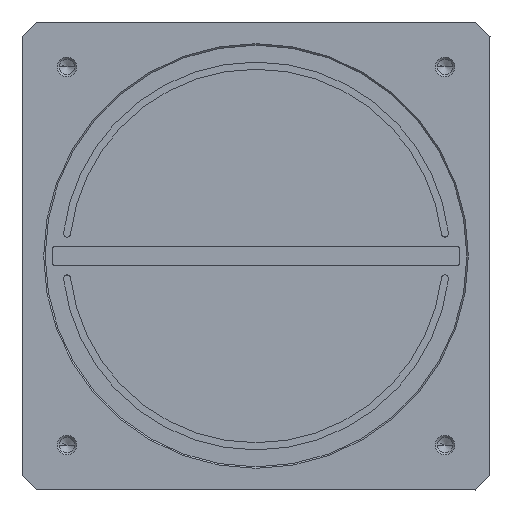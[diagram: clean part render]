
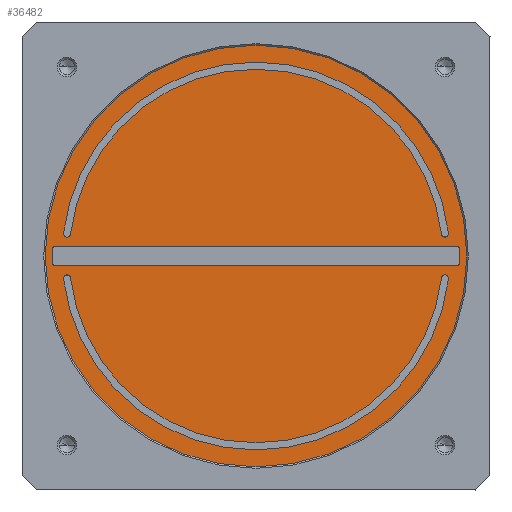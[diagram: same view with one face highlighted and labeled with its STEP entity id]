
A CAD part, front view. The second image highlights one B-rep face of the part: STEP entity #36482.
In plain terms, the highlighted planar face has unit normal (0, -1, 0).
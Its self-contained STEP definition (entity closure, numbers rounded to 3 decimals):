
#11967=CARTESIAN_POINT('',(0.,5.6,0.));
#11968=DIRECTION('',(0.,-1.,0.));
#11969=DIRECTION('',(0.,0.,-1.));
#11970=AXIS2_PLACEMENT_3D('',#11967,#11968,#11969);
#11972=CARTESIAN_POINT('',(0.,5.6,0.));
#11973=DIRECTION('',(0.,-1.,0.));
#11974=DIRECTION('',(0.,0.,1.));
#11975=AXIS2_PLACEMENT_3D('',#11972,#11973,#11974);
#11977=CARTESIAN_POINT('',(0.,5.6,0.));
#11978=DIRECTION('',(0.,-1.,0.));
#11979=DIRECTION('',(0.,0.,1.));
#11980=AXIS2_PLACEMENT_3D('',#11977,#11978,#11979);
#11982=CARTESIAN_POINT('',(0.,5.6,0.));
#11983=DIRECTION('',(0.,-1.,0.));
#11984=DIRECTION('',(0.993,0.,0.118));
#11985=AXIS2_PLACEMENT_3D('',#11982,#11983,#11984);
#11987=CARTESIAN_POINT('',(39.969,5.6,4.75));
#11988=DIRECTION('',(0.,1.,0.));
#11989=DIRECTION('',(0.993,0.,0.118));
#11990=AXIS2_PLACEMENT_3D('',#11987,#11988,#11989);
#11992=CARTESIAN_POINT('',(0.,5.6,0.));
#11993=DIRECTION('',(0.,1.,0.));
#11994=DIRECTION('',(0.,0.,1.));
#11995=AXIS2_PLACEMENT_3D('',#11992,#11993,#11994);
#11997=CARTESIAN_POINT('',(0.,5.6,0.));
#11998=DIRECTION('',(0.,1.,0.));
#11999=DIRECTION('',(-0.993,0.,0.118));
#12000=AXIS2_PLACEMENT_3D('',#11997,#11998,#11999);
#12002=CARTESIAN_POINT('',(-39.969,5.6,4.75));
#12003=DIRECTION('',(0.,1.,0.));
#12004=DIRECTION('',(0.,0.,-1.));
#12005=AXIS2_PLACEMENT_3D('',#12002,#12003,#12004);
#12007=CARTESIAN_POINT('',(-39.969,5.6,4.75));
#12008=DIRECTION('',(0.,1.,0.));
#12009=DIRECTION('',(0.993,0.,-0.118));
#12010=AXIS2_PLACEMENT_3D('',#12007,#12008,#12009);
#12012=CARTESIAN_POINT('',(-39.969,5.6,-4.75));
#12013=DIRECTION('',(0.,1.,0.));
#12014=DIRECTION('',(-0.993,0.,-0.118));
#12015=AXIS2_PLACEMENT_3D('',#12012,#12013,#12014);
#12017=CARTESIAN_POINT('',(0.,5.6,0.));
#12018=DIRECTION('',(0.,1.,0.));
#12019=DIRECTION('',(0.,0.,-1.));
#12020=AXIS2_PLACEMENT_3D('',#12017,#12018,#12019);
#12022=CARTESIAN_POINT('',(0.,5.6,0.));
#12023=DIRECTION('',(0.,1.,0.));
#12024=DIRECTION('',(0.993,0.,-0.118));
#12025=AXIS2_PLACEMENT_3D('',#12022,#12023,#12024);
#12027=CARTESIAN_POINT('',(39.969,5.6,-4.75));
#12028=DIRECTION('',(0.,1.,0.));
#12029=DIRECTION('',(0.,0.,1.));
#12030=AXIS2_PLACEMENT_3D('',#12027,#12028,#12029);
#12032=CARTESIAN_POINT('',(39.969,5.6,-4.75));
#12033=DIRECTION('',(0.,1.,0.));
#12034=DIRECTION('',(-0.993,0.,0.118));
#12035=AXIS2_PLACEMENT_3D('',#12032,#12033,#12034);
#12037=CARTESIAN_POINT('',(0.,5.6,0.));
#12038=DIRECTION('',(0.,-1.,0.));
#12039=DIRECTION('',(0.,0.,-1.));
#12040=AXIS2_PLACEMENT_3D('',#12037,#12038,#12039);
#12042=CARTESIAN_POINT('',(0.,5.6,0.));
#12043=DIRECTION('',(0.,-1.,0.));
#12044=DIRECTION('',(-0.993,0.,-0.118));
#12045=AXIS2_PLACEMENT_3D('',#12042,#12043,#12044);
#12047=CARTESIAN_POINT('',(42.5,5.6,-1.5));
#12048=DIRECTION('',(0.,1.,0.));
#12049=DIRECTION('',(1.,0.,0.));
#12050=AXIS2_PLACEMENT_3D('',#12047,#12048,#12049);
#12052=CARTESIAN_POINT('',(42.5,5.6,1.5));
#12053=DIRECTION('',(0.,1.,0.));
#12054=DIRECTION('',(0.,0.,1.));
#12055=AXIS2_PLACEMENT_3D('',#12052,#12053,#12054);
#12057=CARTESIAN_POINT('',(-42.5,5.6,1.5));
#12058=DIRECTION('',(0.,1.,0.));
#12059=DIRECTION('',(-1.,0.,0.));
#12060=AXIS2_PLACEMENT_3D('',#12057,#12058,#12059);
#12062=CARTESIAN_POINT('',(-42.5,5.6,-1.5));
#12063=DIRECTION('',(0.,1.,0.));
#12064=DIRECTION('',(0.,0.,-1.));
#12065=AXIS2_PLACEMENT_3D('',#12062,#12063,#12064);
#12190=DIRECTION('',(1.,0.,0.));
#12191=VECTOR('',#12190,85.);
#12192=CARTESIAN_POINT('',(-42.5,5.6,-2.1));
#12193=LINE('',#12192,#12191);
#12207=DIRECTION('',(0.,0.,-1.));
#12208=VECTOR('',#12207,3.);
#12209=CARTESIAN_POINT('',(-43.1,5.6,1.5));
#12210=LINE('',#12209,#12208);
#12224=DIRECTION('',(-1.,0.,0.));
#12225=VECTOR('',#12224,85.);
#12226=CARTESIAN_POINT('',(42.5,5.6,2.1));
#12227=LINE('',#12226,#12225);
#12241=DIRECTION('',(0.,0.,1.));
#12242=VECTOR('',#12241,3.);
#12243=CARTESIAN_POINT('',(43.1,5.6,-1.5));
#12244=LINE('',#12243,#12242);
#17502=CARTESIAN_POINT('',(0.,5.6,-45.1));
#17503=CARTESIAN_POINT('',(0.,5.6,45.1));
#17504=VERTEX_POINT('',#17502);
#17505=VERTEX_POINT('',#17503);
#17506=CARTESIAN_POINT('',(0.,5.6,39.5));
#17507=CARTESIAN_POINT('',(-39.224,5.6,4.661));
#17508=VERTEX_POINT('',#17506);
#17509=VERTEX_POINT('',#17507);
#17510=CARTESIAN_POINT('',(39.224,5.6,4.661));
#17511=VERTEX_POINT('',#17510);
#17512=CARTESIAN_POINT('',(40.713,5.6,4.839));
#17513=VERTEX_POINT('',#17512);
#17514=CARTESIAN_POINT('',(0.,5.6,41.));
#17515=VERTEX_POINT('',#17514);
#17516=CARTESIAN_POINT('',(-40.713,5.6,4.839));
#17517=VERTEX_POINT('',#17516);
#17518=CARTESIAN_POINT('',(-39.969,5.6,4.));
#17519=VERTEX_POINT('',#17518);
#17520=CARTESIAN_POINT('',(-40.713,5.6,-4.839));
#17521=CARTESIAN_POINT('',(-39.224,5.6,-4.661));
#17522=VERTEX_POINT('',#17520);
#17523=VERTEX_POINT('',#17521);
#17524=CARTESIAN_POINT('',(0.,5.6,-41.));
#17525=VERTEX_POINT('',#17524);
#17526=CARTESIAN_POINT('',(40.713,5.6,-4.839));
#17527=VERTEX_POINT('',#17526);
#17528=CARTESIAN_POINT('',(39.969,5.6,-4.));
#17529=VERTEX_POINT('',#17528);
#17530=CARTESIAN_POINT('',(39.224,5.6,-4.661));
#17531=VERTEX_POINT('',#17530);
#17532=CARTESIAN_POINT('',(0.,5.6,-39.5));
#17533=VERTEX_POINT('',#17532);
#17534=CARTESIAN_POINT('',(43.1,5.6,-1.5));
#17535=CARTESIAN_POINT('',(42.5,5.6,-2.1));
#17536=VERTEX_POINT('',#17534);
#17537=VERTEX_POINT('',#17535);
#17538=CARTESIAN_POINT('',(43.1,5.6,1.5));
#17539=VERTEX_POINT('',#17538);
#17540=CARTESIAN_POINT('',(42.5,5.6,2.1));
#17541=VERTEX_POINT('',#17540);
#17542=CARTESIAN_POINT('',(-42.5,5.6,
2.1));
#17543=VERTEX_POINT('',#17542);
#17544=CARTESIAN_POINT('',(-43.1,5.6,1.5));
#17545=VERTEX_POINT('',#17544);
#17546=CARTESIAN_POINT('',(-43.1,5.6,-1.5));
#17547=VERTEX_POINT('',#17546);
#17548=CARTESIAN_POINT('',(-42.5,5.6,-2.1));
#17549=VERTEX_POINT('',#17548);
#36422=CARTESIAN_POINT('',(0.,5.6,0.));
#36423=DIRECTION('',(0.,1.,0.));
#36424=DIRECTION('',(1.,0.,0.));
#36425=AXIS2_PLACEMENT_3D('',#36422,#36423,#36424);
#36426=PLANE('',#36425);
#36427=ORIENTED_EDGE('',*,*,#36412,.F.);
#36429=ORIENTED_EDGE('',*,*,#36428,.F.);
#36430=EDGE_LOOP('',(#36427,#36429));
#36431=FACE_OUTER_BOUND('',#36430,.F.);
#36433=ORIENTED_EDGE('',*,*,#36432,.F.);
#36435=ORIENTED_EDGE('',*,*,#36434,.F.);
#36437=ORIENTED_EDGE('',*,*,#36436,.F.);
#36439=ORIENTED_EDGE('',*,*,#36438,.F.);
#36441=ORIENTED_EDGE('',*,*,#36440,.F.);
#36443=ORIENTED_EDGE('',*,*,#36442,.F.);
#36445=ORIENTED_EDGE('',*,*,#36444,.F.);
#36446=EDGE_LOOP('',(#36433,#36435,#36437,#36439,#36441,#36443,#36445));
#36447=FACE_BOUND('',#36446,.F.);
#36449=ORIENTED_EDGE('',*,*,#36448,.F.);
#36451=ORIENTED_EDGE('',*,*,#36450,.F.);
#36453=ORIENTED_EDGE('',*,*,#36452,.F.);
#36455=ORIENTED_EDGE('',*,*,#36454,.F.);
#36457=ORIENTED_EDGE('',*,*,#36456,.F.);
#36459=ORIENTED_EDGE('',*,*,#36458,.F.);
#36461=ORIENTED_EDGE('',*,*,#36460,.F.);
#36462=EDGE_LOOP('',(#36449,#36451,#36453,#36455,#36457,#36459,#36461));
#36463=FACE_BOUND('',#36462,.F.);
#36465=ORIENTED_EDGE('',*,*,#36464,.F.);
#36467=ORIENTED_EDGE('',*,*,#36466,.T.);
#36469=ORIENTED_EDGE('',*,*,#36468,.F.);
#36471=ORIENTED_EDGE('',*,*,#36470,.T.);
#36473=ORIENTED_EDGE('',*,*,#36472,.F.);
#36475=ORIENTED_EDGE('',*,*,#36474,.T.);
#36477=ORIENTED_EDGE('',*,*,#36476,.F.);
#36479=ORIENTED_EDGE('',*,*,#36478,.T.);
#36480=EDGE_LOOP('',(#36465,#36467,#36469,#36471,#36473,#36475,#36477,#36479));
#36481=FACE_BOUND('',#36480,.F.);
#36482=ADVANCED_FACE('',(#36431,#36447,#36463,#36481),#36426,.F.);
#11971=CIRCLE('',#11970,45.1);
#11976=CIRCLE('',#11975,45.1);
#11981=CIRCLE('',#11980,39.5);
#11986=CIRCLE('',#11985,39.5);
#11991=CIRCLE('',#11990,0.75);
#11996=CIRCLE('',#11995,41.);
#12001=CIRCLE('',#12000,41.);
#12006=CIRCLE('',#12005,0.75);
#12011=CIRCLE('',#12010,0.75);
#12016=CIRCLE('',#12015,0.75);
#12021=CIRCLE('',#12020,41.);
#12026=CIRCLE('',#12025,41.);
#12031=CIRCLE('',#12030,0.75);
#12036=CIRCLE('',#12035,0.75);
#12041=CIRCLE('',#12040,39.5);
#12046=CIRCLE('',#12045,39.5);
#12051=CIRCLE('',#12050,0.6);
#12056=CIRCLE('',#12055,0.6);
#12061=CIRCLE('',#12060,0.6);
#12066=CIRCLE('',#12065,0.6);
#36412=EDGE_CURVE('',#17504,#17505,#11971,.T.);
#36428=EDGE_CURVE('',#17505,#17504,#11976,.T.);
#36432=EDGE_CURVE('',#17508,#17509,#11981,.T.);
#36434=EDGE_CURVE('',#17511,#17508,#11986,.T.);
#36436=EDGE_CURVE('',#17513,#17511,#11991,.T.);
#36438=EDGE_CURVE('',#17515,#17513,#11996,.T.);
#36440=EDGE_CURVE('',#17517,#17515,#12001,.T.);
#36442=EDGE_CURVE('',#17519,#17517,#12006,.T.);
#36444=EDGE_CURVE('',#17509,#17519,#12011,.T.);
#36448=EDGE_CURVE('',#17522,#17523,#12016,.T.);
#36450=EDGE_CURVE('',#17525,#17522,#12021,.T.);
#36452=EDGE_CURVE('',#17527,#17525,#12026,.T.);
#36454=EDGE_CURVE('',#17529,#17527,#12031,.T.);
#36456=EDGE_CURVE('',#17531,#17529,#12036,.T.);
#36458=EDGE_CURVE('',#17533,#17531,#12041,.T.);
#36460=EDGE_CURVE('',#17523,#17533,#12046,.T.);
#36464=EDGE_CURVE('',#17536,#17537,#12051,.T.);
#36466=EDGE_CURVE('',#17536,#17539,#12244,.T.);
#36468=EDGE_CURVE('',#17541,#17539,#12056,.T.);
#36470=EDGE_CURVE('',#17541,#17543,#12227,.T.);
#36472=EDGE_CURVE('',#17545,#17543,#12061,.T.);
#36474=EDGE_CURVE('',#17545,#17547,#12210,.T.);
#36476=EDGE_CURVE('',#17549,#17547,#12066,.T.);
#36478=EDGE_CURVE('',#17549,#17537,#12193,.T.);
